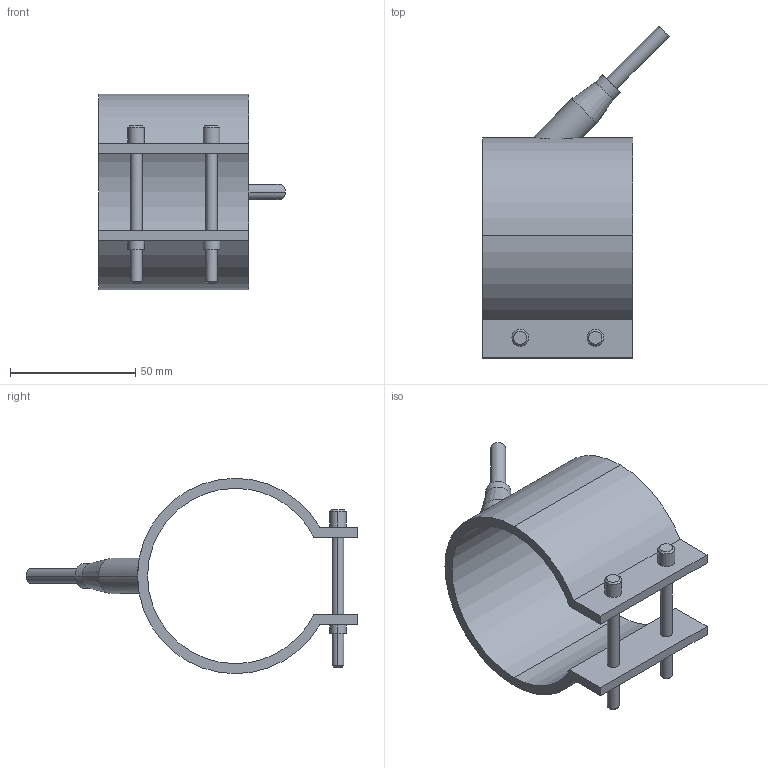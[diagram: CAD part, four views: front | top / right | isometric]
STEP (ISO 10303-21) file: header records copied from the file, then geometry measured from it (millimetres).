
FILE_DESCRIPTION(('CATIA V5 STEP Exchange'),'2;1');
FILE_NAME('C:\Users\Utente\Desktop\IO LAVORO\3D X SITO CF\X SITO\PLASTICA\RF1\29070060.stp','2021-03-29T18:17:59+00:00',('none'),('none'),'CATIA Version 5 Release 20 GA (IN-10)','CATIA V5 STEP AP203','none');
FILE_SCHEMA(('CONFIG_CONTROL_DESIGN'));
Length unit declared in the file: millimetre
Products named in the file (1): 29070060
Bounding box: 74.55 x 132.55 x 78 mm (x, y, z)
Volume: 61949.7 mm3; surface area: 33074.8 mm2
Topology: 1 solids, 1 shells, 54 faces, 126 edges, 82 vertices
Faces by surface type: cylinder 28, plane 16, cone 10
Entity records: 1755 total; most frequent: CARTESIAN_POINT 506, ORIENTED_EDGE 252, DIRECTION 214, EDGE_CURVE 126, AXIS2_PLACEMENT_3D 107, VERTEX_POINT 82, EDGE_LOOP 66, VECTOR 56
